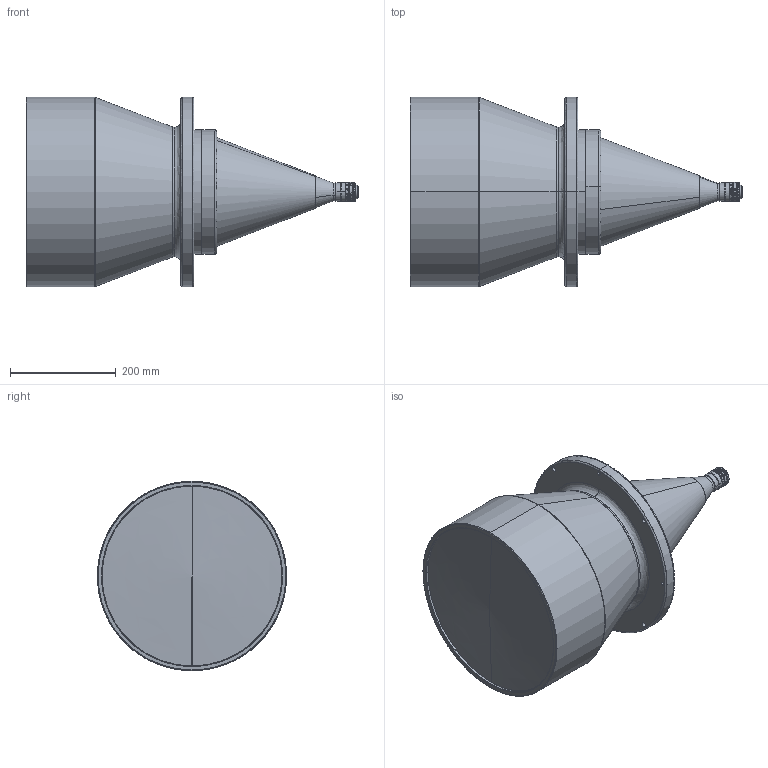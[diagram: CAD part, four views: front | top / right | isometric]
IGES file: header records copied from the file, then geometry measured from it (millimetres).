
Start section: SolidWorks IGES file using analytic representation for surfaces
Global section: file name: F:\BaiduSyncdisk\1-产品  2022-new\DTCM（2023.5.29整体拷过来）\F+B\－－ AL   可调后截距\300S-  AL-ok\DTCM118-300S-AL\3D\DTCM118-300S-AL.IGS; native system: SolidWorks 2017; preprocessor: SolidWorks 2017; author: luo-PC; date: 231122.182642; units: millimetre
Bounding box: 627.7 x 358 x 358 mm (x, y, z)
Surface area: 686052.3 mm2 (no closed solid volume)
Topology: 0 solids, 0 shells, 259 faces, 4183 edges, 4179 vertices
Faces by surface type: revolution 219, bspline 40
